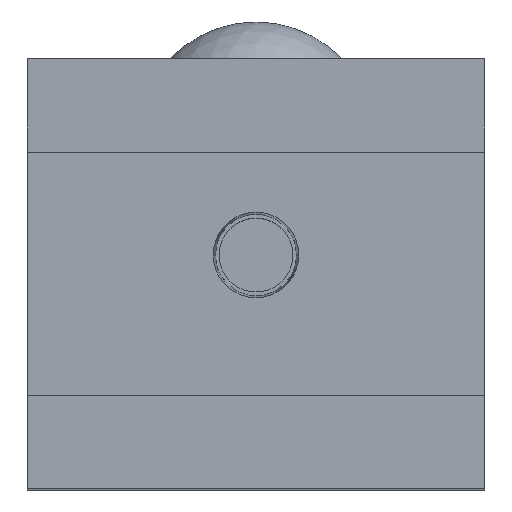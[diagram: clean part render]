
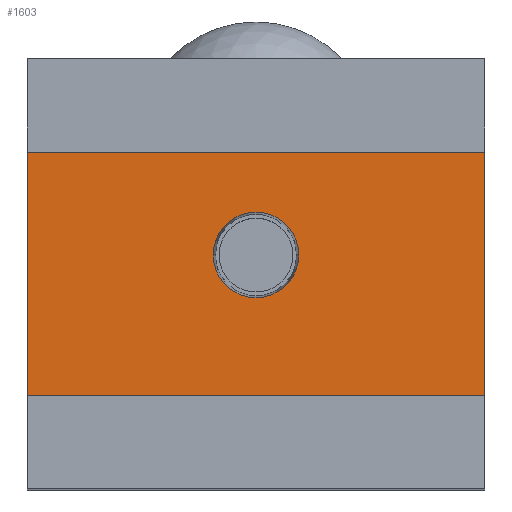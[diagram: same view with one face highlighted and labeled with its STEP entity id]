
A CAD part, top view. The second image highlights one B-rep face of the part: STEP entity #1603.
In plain terms, the highlighted planar face has unit normal (0, 0, 1).
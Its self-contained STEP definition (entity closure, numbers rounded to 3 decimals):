
#120 = EDGE_CURVE ( 'NONE', #955, #1382, #1954, .T. ) ;
#178 = CARTESIAN_POINT ( 'NONE',  ( 24.4, 36., -0.2 ) ) ;
#260 = DIRECTION ( 'NONE',  ( 0., 0., 1. ) ) ;
#301 = CARTESIAN_POINT ( 'NONE',  ( -24.4, 36., -0.2 ) ) ;
#537 = EDGE_CURVE ( 'NONE', #1103, #2631, #2645, .T. ) ;
#647 = VERTEX_POINT ( 'NONE', #2854 ) ;
#685 = CIRCLE ( 'NONE', #1259, 4.574 ) ;
#766 = CARTESIAN_POINT ( 'NONE',  ( 24.4, 10., -0.2 ) ) ;
#815 = FACE_OUTER_BOUND ( 'NONE', #1733, .T. ) ;
#914 = CARTESIAN_POINT ( 'NONE',  ( -24.4, 10., -0.2 ) ) ;
#929 = ORIENTED_EDGE ( 'NONE', *, *, #1275, .F. ) ;
#939 = ORIENTED_EDGE ( 'NONE', *, *, #2117, .T. ) ;
#953 = ORIENTED_EDGE ( 'NONE', *, *, #537, .T. ) ;
#955 = VERTEX_POINT ( 'NONE', #1669 ) ;
#963 = EDGE_CURVE ( 'NONE', #2810, #647, #685, .T. ) ;
#1009 = PLANE ( 'NONE',  #1690 ) ;
#1103 = VERTEX_POINT ( 'NONE', #1776 ) ;
#1143 = DIRECTION ( 'NONE',  ( -1., 0., 0. ) ) ;
#1201 = LINE ( 'NONE', #178, #2500 ) ;
#1253 = VECTOR ( 'NONE', #3131, 1000. ) ;
#1259 = AXIS2_PLACEMENT_3D ( 'NONE', #2969, #1409, #3243 ) ;
#1261 = VECTOR ( 'NONE', #1143, 1000. ) ;
#1275 = EDGE_CURVE ( 'NONE', #647, #2810, #2508, .T. ) ;
#1285 = CARTESIAN_POINT ( 'NONE',  ( -24.4, 36., -0.2 ) ) ;
#1301 = DIRECTION ( 'NONE',  ( -1., 0., 0. ) ) ;
#1371 = CARTESIAN_POINT ( 'NONE',  ( 24.4, 10., -0.2 ) ) ;
#1382 = VERTEX_POINT ( 'NONE', #301 ) ;
#1409 = DIRECTION ( 'NONE',  ( 0., 0., 1. ) ) ;
#1603 = ADVANCED_FACE ( 'NONE', ( #2223, #815 ), #1009, .F. ) ;
#1669 = CARTESIAN_POINT ( 'NONE',  ( 24.4, 36., -0.2 ) ) ;
#1690 = AXIS2_PLACEMENT_3D ( 'NONE', #2318, #2849, #1301 ) ;
#1728 = EDGE_LOOP ( 'NONE', ( #929, #1910 ) ) ;
#1733 = EDGE_LOOP ( 'NONE', ( #2581, #1995, #953, #939 ) ) ;
#1776 = CARTESIAN_POINT ( 'NONE',  ( -24.4, 10., -0.2 ) ) ;
#1784 = DIRECTION ( 'NONE',  ( 0., 1., 0. ) ) ;
#1861 = CARTESIAN_POINT ( 'NONE',  ( 0., 25., -0.2 ) ) ;
#1910 = ORIENTED_EDGE ( 'NONE', *, *, #963, .F. ) ;
#1954 = LINE ( 'NONE', #1285, #1261 ) ;
#1969 = VECTOR ( 'NONE', #2226, 1000. ) ;
#1995 = ORIENTED_EDGE ( 'NONE', *, *, #3302, .T. ) ;
#2038 = LINE ( 'NONE', #914, #1969 ) ;
#2112 = DIRECTION ( 'NONE',  ( 1., 0., 0. ) ) ;
#2117 = EDGE_CURVE ( 'NONE', #2631, #955, #1201, .T. ) ;
#2223 = FACE_BOUND ( 'NONE', #1728, .T. ) ;
#2226 = DIRECTION ( 'NONE',  ( 0., -1., 0. ) ) ;
#2318 = CARTESIAN_POINT ( 'NONE',  ( 0., 0., -0.2 ) ) ;
#2500 = VECTOR ( 'NONE', #1784, 1000. ) ;
#2508 = CIRCLE ( 'NONE', #2807, 4.574 ) ;
#2581 = ORIENTED_EDGE ( 'NONE', *, *, #120, .T. ) ;
#2631 = VERTEX_POINT ( 'NONE', #1371 ) ;
#2645 = LINE ( 'NONE', #766, #1253 ) ;
#2807 = AXIS2_PLACEMENT_3D ( 'NONE', #1861, #260, #2112 ) ;
#2810 = VERTEX_POINT ( 'NONE', #3070 ) ;
#2849 = DIRECTION ( 'NONE',  ( 0., 0., -1. ) ) ;
#2854 = CARTESIAN_POINT ( 'NONE',  ( 4.574, 25., -0.2 ) ) ;
#2969 = CARTESIAN_POINT ( 'NONE',  ( 0., 25., -0.2 ) ) ;
#3070 = CARTESIAN_POINT ( 'NONE',  ( -4.574, 25., -0.2 ) ) ;
#3131 = DIRECTION ( 'NONE',  ( 1., 0., 0. ) ) ;
#3243 = DIRECTION ( 'NONE',  ( 1., 0., 0. ) ) ;
#3302 = EDGE_CURVE ( 'NONE', #1382, #1103, #2038, .T. ) ;
